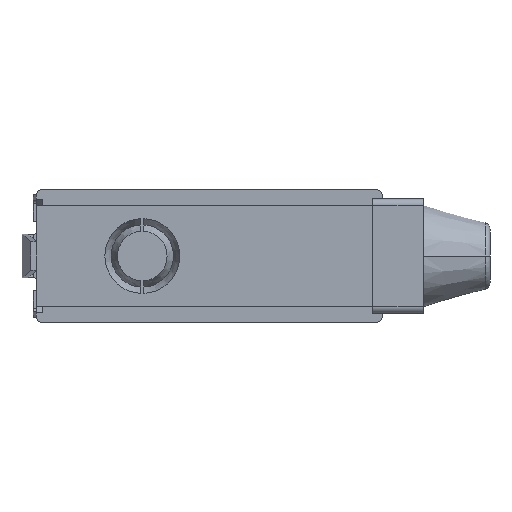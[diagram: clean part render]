
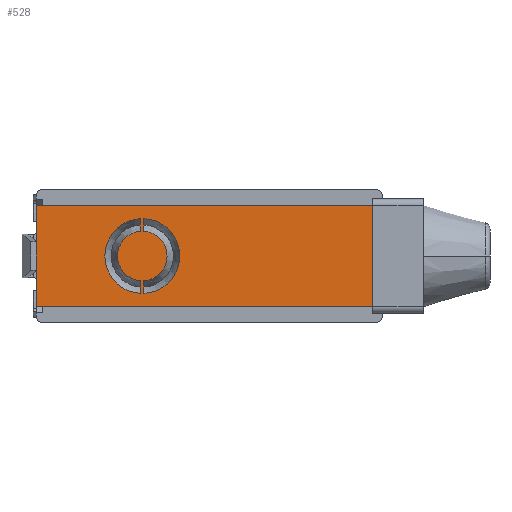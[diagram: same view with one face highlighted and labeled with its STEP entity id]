
A CAD part, front view. The second image highlights one B-rep face of the part: STEP entity #528.
In plain terms, the highlighted planar face has unit normal (0, -1, 0).
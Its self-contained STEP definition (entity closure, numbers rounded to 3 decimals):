
#29 = EDGE_LOOP ( 'NONE', ( #6095, #6094, #6093, #6097 ) ) ;
#30 = EDGE_LOOP ( 'NONE', ( #6099, #6098, #6101, #6096 ) ) ;
#251 = FACE_OUTER_BOUND ( 'NONE', #29, .T. ) ;
#258 = FACE_BOUND ( 'NONE', #5672, .T. ) ;
#259 = FACE_BOUND ( 'NONE', #30, .T. ) ;
#313 = AXIS2_PLACEMENT_3D ( 'NONE', #9877, #9878, #9879 ) ;
#528 = ADVANCED_FACE ( 'NONE', ( #258, #259, #251 ), #9876, .F. ) ;
#1112 = VERTEX_POINT ( 'NONE', #10057 ) ;
#1121 = VERTEX_POINT ( 'NONE', #10061 ) ;
#1705 = CARTESIAN_POINT ( 'NONE',  ( -10.3, -19.6, 3.892 ) ) ;
#1707 = CARTESIAN_POINT ( 'NONE',  ( -10.3, -19.6, 5.895 ) ) ;
#1720 = CARTESIAN_POINT ( 'NONE',  ( -10.3, -19.6, -5.895 ) ) ;
#1732 = CARTESIAN_POINT ( 'NONE',  ( -10.8, -19.6, -5.895 ) ) ;
#1742 = CARTESIAN_POINT ( 'NONE',  ( -10.8, -19.6, -3.892 ) ) ;
#1781 = CARTESIAN_POINT ( 'NONE',  ( -10.8, -19.6, 3.892 ) ) ;
#1785 = CARTESIAN_POINT ( 'NONE',  ( -27.25, -19.6, -7.95 ) ) ;
#1842 = CARTESIAN_POINT ( 'NONE',  ( -10.3, -19.6, -3.892 ) ) ;
#1867 = CARTESIAN_POINT ( 'NONE',  ( -27.25, -19.6, 7.95 ) ) ;
#2353 = VECTOR ( 'NONE', #8903, 1000. ) ;
#2391 = VECTOR ( 'NONE', #9017, 1000. ) ;
#2508 = AXIS2_PLACEMENT_3D ( 'NONE', #10612, #10613, #10614 ) ;
#2510 = AXIS2_PLACEMENT_3D ( 'NONE', #10680, #10681, #10682 ) ;
#2511 = AXIS2_PLACEMENT_3D ( 'NONE', #10615, #10616, #10617 ) ;
#2513 = VECTOR ( 'NONE', #10632, 1000. ) ;
#2514 = VECTOR ( 'NONE', #10635, 1000. ) ;
#2515 = VECTOR ( 'NONE', #10638, 1000. ) ;
#2516 = VECTOR ( 'NONE', #10641, 1000. ) ;
#2694 = AXIS2_PLACEMENT_3D ( 'NONE', #11697, #11707, #11708 ) ;
#4260 = VECTOR ( 'NONE', #9074, 1000. ) ;
#4287 = VECTOR ( 'NONE', #9230, 1000. ) ;
#5646 = VERTEX_POINT ( 'NONE', #1705 ) ;
#5649 = VERTEX_POINT ( 'NONE', #1707 ) ;
#5672 = EDGE_LOOP ( 'NONE', ( #6105, #6103, #6107, #6100 ) ) ;
#5695 = VERTEX_POINT ( 'NONE', #1720 ) ;
#6093 = ORIENTED_EDGE ( 'NONE', *, *, #7606, .F. ) ;
#6094 = ORIENTED_EDGE ( 'NONE', *, *, #7655, .F. ) ;
#6095 = ORIENTED_EDGE ( 'NONE', *, *, #7681, .T. ) ;
#6096 = ORIENTED_EDGE ( 'NONE', *, *, #7781, .T. ) ;
#6097 = ORIENTED_EDGE ( 'NONE', *, *, #7644, .T. ) ;
#6098 = ORIENTED_EDGE ( 'NONE', *, *, #7780, .F. ) ;
#6099 = ORIENTED_EDGE ( 'NONE', *, *, #7786, .T. ) ;
#6100 = ORIENTED_EDGE ( 'NONE', *, *, #7798, .T. ) ;
#6101 = ORIENTED_EDGE ( 'NONE', *, *, #7787, .T. ) ;
#6103 = ORIENTED_EDGE ( 'NONE', *, *, #7994, .F. ) ;
#6104 = VERTEX_POINT ( 'NONE', #1732 ) ;
#6105 = ORIENTED_EDGE ( 'NONE', *, *, #7784, .T. ) ;
#6107 = ORIENTED_EDGE ( 'NONE', *, *, #7785, .T. ) ;
#6124 = VERTEX_POINT ( 'NONE', #1742 ) ;
#6202 = VERTEX_POINT ( 'NONE', #1781 ) ;
#6210 = VERTEX_POINT ( 'NONE', #1785 ) ;
#6324 = VERTEX_POINT ( 'NONE', #1842 ) ;
#6374 = VERTEX_POINT ( 'NONE', #1867 ) ;
#6486 = VERTEX_POINT ( 'NONE', #8255 ) ;
#7227 = CIRCLE ( 'NONE', #2694, 5.9 ) ;
#7325 = CIRCLE ( 'NONE', #2510, 3.9 ) ;
#7332 = CIRCLE ( 'NONE', #2511, 3.9 ) ;
#7333 = CIRCLE ( 'NONE', #2508, 5.9 ) ;
#7606 = EDGE_CURVE ( 'NONE', #1121, #1112, #8901, .T. ) ;
#7644 = EDGE_CURVE ( 'NONE', #1121, #6374, #9015, .T. ) ;
#7655 = EDGE_CURVE ( 'NONE', #1112, #6210, #9070, .T. ) ;
#7681 = EDGE_CURVE ( 'NONE', #6374, #6210, #9226, .T. ) ;
#7780 = EDGE_CURVE ( 'NONE', #6486, #6104, #7333, .T. ) ;
#7781 = EDGE_CURVE ( 'NONE', #6202, #6124, #7332, .T. ) ;
#7784 = EDGE_CURVE ( 'NONE', #5646, #5649, #10630, .T. ) ;
#7785 = EDGE_CURVE ( 'NONE', #5695, #6324, #10633, .T. ) ;
#7786 = EDGE_CURVE ( 'NONE', #6124, #6104, #10636, .T. ) ;
#7787 = EDGE_CURVE ( 'NONE', #6486, #6202, #10639, .T. ) ;
#7798 = EDGE_CURVE ( 'NONE', #6324, #5646, #7325, .T. ) ;
#7994 = EDGE_CURVE ( 'NONE', #5695, #5649, #7227, .T. ) ;
#8255 = CARTESIAN_POINT ( 'NONE',  ( -10.8, -19.6, 5.895 ) ) ;
#8901 = LINE ( 'NONE', #8902, #2353 ) ;
#8902 = CARTESIAN_POINT ( 'NONE',  ( 27.25, -19.6, 7.95 ) ) ;
#8903 = DIRECTION ( 'NONE',  ( 0., 0., -1. ) ) ;
#9015 = LINE ( 'NONE', #9016, #2391 ) ;
#9016 = CARTESIAN_POINT ( 'NONE',  ( 27.25, -19.6, 7.95 ) ) ;
#9017 = DIRECTION ( 'NONE',  ( -1., 0., 0. ) ) ;
#9070 = LINE ( 'NONE', #9071, #4260 ) ;
#9071 = CARTESIAN_POINT ( 'NONE',  ( 27.25, -19.6, -7.95 ) ) ;
#9074 = DIRECTION ( 'NONE',  ( -1., 0., 0. ) ) ;
#9226 = LINE ( 'NONE', #9227, #4287 ) ;
#9227 = CARTESIAN_POINT ( 'NONE',  ( -27.25, -19.6, 7.95 ) ) ;
#9230 = DIRECTION ( 'NONE',  ( 0., 0., -1. ) ) ;
#9876 = PLANE ( 'NONE',  #313 ) ;
#9877 = CARTESIAN_POINT ( 'NONE',  ( 27.25, -19.6, 7.95 ) ) ;
#9878 = DIRECTION ( 'NONE',  ( 0., 1., 0. ) ) ;
#9879 = DIRECTION ( 'NONE',  ( 0., 0., 1. ) ) ;
#10057 = CARTESIAN_POINT ( 'NONE',  ( 27.25, -19.6, -7.95 ) ) ;
#10061 = CARTESIAN_POINT ( 'NONE',  ( 27.25, -19.6, 7.95 ) ) ;
#10612 = CARTESIAN_POINT ( 'NONE',  ( -10.55, -19.6, 0. ) ) ;
#10613 = DIRECTION ( 'NONE',  ( 0., -1., 0. ) ) ;
#10614 = DIRECTION ( 'NONE',  ( 0., 0., -1. ) ) ;
#10615 = CARTESIAN_POINT ( 'NONE',  ( -10.55, -19.6, 0. ) ) ;
#10616 = DIRECTION ( 'NONE',  ( 0., -1., 0. ) ) ;
#10617 = DIRECTION ( 'NONE',  ( 0., 0., -1. ) ) ;
#10630 = LINE ( 'NONE', #10631, #2513 ) ;
#10631 = CARTESIAN_POINT ( 'NONE',  ( -10.3, -19.6, -5.9 ) ) ;
#10632 = DIRECTION ( 'NONE',  ( 0., 0., 1. ) ) ;
#10633 = LINE ( 'NONE', #10634, #2514 ) ;
#10634 = CARTESIAN_POINT ( 'NONE',  ( -10.3, -19.6, -5.9 ) ) ;
#10635 = DIRECTION ( 'NONE',  ( 0., 0., 1. ) ) ;
#10636 = LINE ( 'NONE', #10637, #2515 ) ;
#10637 = CARTESIAN_POINT ( 'NONE',  ( -10.8, -19.6, -5.9 ) ) ;
#10638 = DIRECTION ( 'NONE',  ( 0., 0., -1. ) ) ;
#10639 = LINE ( 'NONE', #10640, #2516 ) ;
#10640 = CARTESIAN_POINT ( 'NONE',  ( -10.8, -19.6, -5.9 ) ) ;
#10641 = DIRECTION ( 'NONE',  ( 0., 0., -1. ) ) ;
#10680 = CARTESIAN_POINT ( 'NONE',  ( -10.55, -19.6, 0. ) ) ;
#10681 = DIRECTION ( 'NONE',  ( 0., -1., 0. ) ) ;
#10682 = DIRECTION ( 'NONE',  ( 0., 0., -1. ) ) ;
#11697 = CARTESIAN_POINT ( 'NONE',  ( -10.55, -19.6, 0. ) ) ;
#11707 = DIRECTION ( 'NONE',  ( 0., -1., 0. ) ) ;
#11708 = DIRECTION ( 'NONE',  ( 0., 0., -1. ) ) ;
